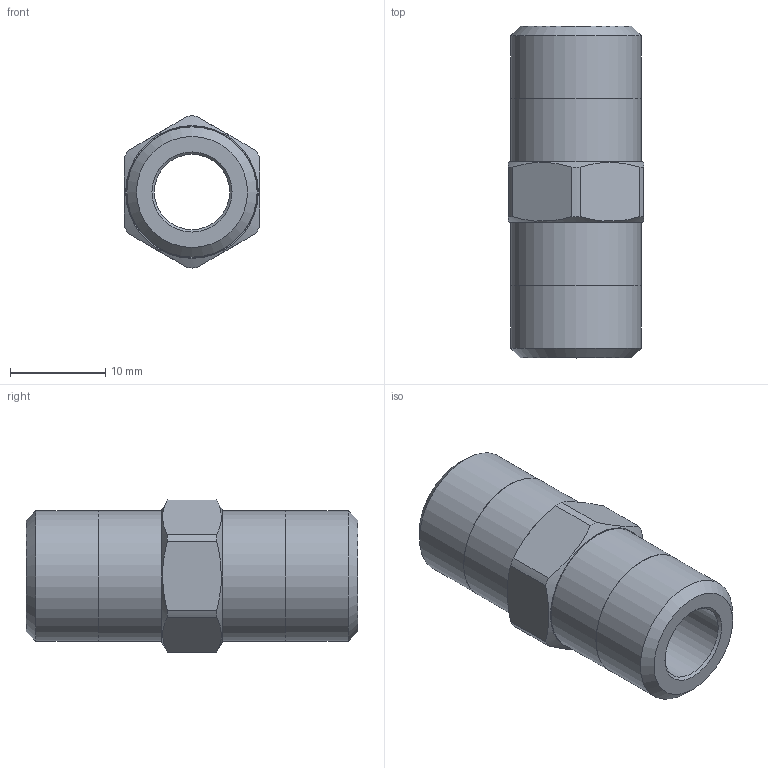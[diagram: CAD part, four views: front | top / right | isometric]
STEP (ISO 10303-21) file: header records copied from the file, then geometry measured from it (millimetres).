
FILE_DESCRIPTION(/* description */ (''),/* implementation_level */ '2;1');
FILE_NAME(/* name */ 'C:/Users/drich/Desktop/HN-14 v1.step',/* time_stamp */ '2020-02-09T10:56:45-06:00',/* author */ (''),/* organization */ (''),/* preprocessor_version */ 'ST-DEVELOPER v18',/* originating_system */ 'Autodesk Translation Framework v8.12.0.6',/* authorisation */ '');
FILE_SCHEMA (('AUTOMOTIVE_DESIGN { 1 0 10303 214 3 1 1 }'));
Length unit declared in the file: inch
Products named in the file (1): HN-14
Bounding box: 14.27 x 34.92 x 16 mm (x, y, z)
Volume: 3578.5 mm3; surface area: 2582.3 mm2
Topology: 1 solids, 1 shells, 29 faces, 75 edges, 52 vertices
Faces by surface type: plane 12, cylinder 11, cone 6
Full cylindrical faces by diameter (mm): 7.925 x1, 13.716 x2, 13.767 x2
Entity records: 951 total; most frequent: CARTESIAN_POINT 181, DIRECTION 163, ORIENTED_EDGE 150, EDGE_CURVE 75, AXIS2_PLACEMENT_3D 70, VERTEX_POINT 52, CIRCLE 40, EDGE_LOOP 35
